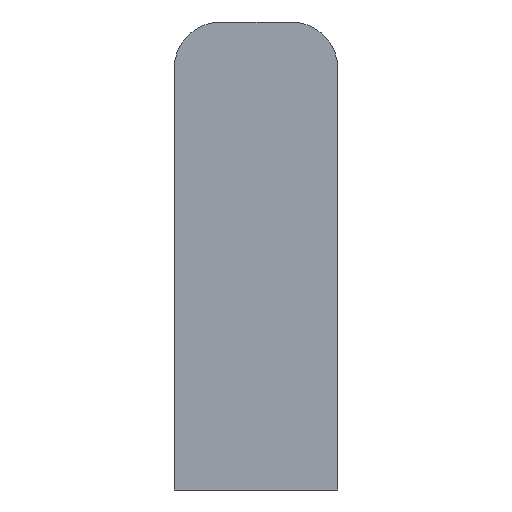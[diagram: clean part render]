
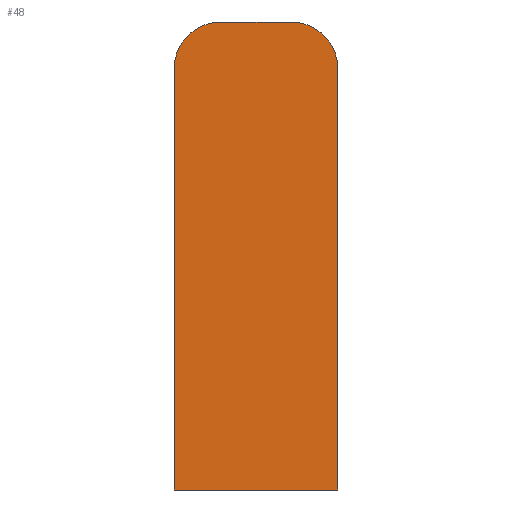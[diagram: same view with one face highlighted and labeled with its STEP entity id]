
A CAD part, front view. The second image highlights one B-rep face of the part: STEP entity #48.
In plain terms, the highlighted planar face has unit normal (0, -1, 0).
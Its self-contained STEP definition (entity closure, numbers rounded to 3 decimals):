
#3 = EDGE_CURVE ( 'NONE', #91, #57, #230, .T. ) ;
#5 = AXIS2_PLACEMENT_3D ( 'NONE', #79, #82, #83 ) ;
#8 = AXIS2_PLACEMENT_3D ( 'NONE', #126, #132, #133 ) ;
#14 = EDGE_CURVE ( 'NONE', #63, #54, #174, .T. ) ;
#15 = EDGE_CURVE ( 'NONE', #54, #91, #177, .T. ) ;
#18 = EDGE_CURVE ( 'NONE', #58, #63, #172, .T. ) ;
#21 = AXIS2_PLACEMENT_3D ( 'NONE', #76, #101, #102 ) ;
#22 = EDGE_CURVE ( 'NONE', #57, #53, #223, .T. ) ;
#33 = EDGE_CURVE ( 'NONE', #53, #58, #224, .T. ) ;
#48 = ADVANCED_FACE ( 'NONE', ( #254 ), #123, .F. ) ;
#53 = VERTEX_POINT ( 'NONE', #130 ) ;
#54 = VERTEX_POINT ( 'NONE', #135 ) ;
#57 = VERTEX_POINT ( 'NONE', #136 ) ;
#58 = VERTEX_POINT ( 'NONE', #137 ) ;
#63 = VERTEX_POINT ( 'NONE', #141 ) ;
#65 = CARTESIAN_POINT ( 'NONE',  ( 2.25, 0., 13.5 ) ) ;
#68 = DIRECTION ( 'NONE',  ( -1., 0., 0. ) ) ;
#71 = CARTESIAN_POINT ( 'NONE',  ( 5.25, 0., -16.5 ) ) ;
#76 = CARTESIAN_POINT ( 'NONE',  ( -2.25, 0., 10.5 ) ) ;
#79 = CARTESIAN_POINT ( 'NONE',  ( 2.25, 0., 10.5 ) ) ;
#80 = DIRECTION ( 'NONE',  ( 0., 0., 1. ) ) ;
#82 = DIRECTION ( 'NONE',  ( 0., -1., 0. ) ) ;
#83 = DIRECTION ( 'NONE',  ( -1., 0., 0. ) ) ;
#89 = CARTESIAN_POINT ( 'NONE',  ( 5.25, 0., -16.5 ) ) ;
#91 = VERTEX_POINT ( 'NONE', #142 ) ;
#94 = DIRECTION ( 'NONE',  ( 0., 0., -1. ) ) ;
#99 = DIRECTION ( 'NONE',  ( 1., 0., 0. ) ) ;
#100 = CARTESIAN_POINT ( 'NONE',  ( -5.25, 0., -16.5 ) ) ;
#101 = DIRECTION ( 'NONE',  ( 0., -1., 0. ) ) ;
#102 = DIRECTION ( 'NONE',  ( -1., 0., 0. ) ) ;
#123 = PLANE ( 'NONE',  #8 ) ;
#126 = CARTESIAN_POINT ( 'NONE',  ( 0., 0., -1.5 ) ) ;
#130 = CARTESIAN_POINT ( 'NONE',  ( -5.25, 0., 10.5 ) ) ;
#132 = DIRECTION ( 'NONE',  ( 0., 1., 0. ) ) ;
#133 = DIRECTION ( 'NONE',  ( -1., 0., 0. ) ) ;
#135 = CARTESIAN_POINT ( 'NONE',  ( 5.25, 0., 10.5 ) ) ;
#136 = CARTESIAN_POINT ( 'NONE',  ( -2.25, 0., 13.5 ) ) ;
#137 = CARTESIAN_POINT ( 'NONE',  ( -5.25, 0., -16.5 ) ) ;
#141 = CARTESIAN_POINT ( 'NONE',  ( 5.25, 0., -16.5 ) ) ;
#142 = CARTESIAN_POINT ( 'NONE',  ( 2.25, 0., 13.5 ) ) ;
#172 = LINE ( 'NONE', #89, #217 ) ;
#174 = LINE ( 'NONE', #71, #214 ) ;
#177 = CIRCLE ( 'NONE', #5, 3. ) ;
#182 = ORIENTED_EDGE ( 'NONE', *, *, #15, .T. ) ;
#183 = EDGE_LOOP ( 'NONE', ( #200, #182, #206, #195, #194, #193 ) ) ;
#193 = ORIENTED_EDGE ( 'NONE', *, *, #18, .T. ) ;
#194 = ORIENTED_EDGE ( 'NONE', *, *, #33, .T. ) ;
#195 = ORIENTED_EDGE ( 'NONE', *, *, #22, .T. ) ;
#200 = ORIENTED_EDGE ( 'NONE', *, *, #14, .T. ) ;
#206 = ORIENTED_EDGE ( 'NONE', *, *, #3, .T. ) ;
#214 = VECTOR ( 'NONE', #80, 1000. ) ;
#217 = VECTOR ( 'NONE', #99, 1000. ) ;
#221 = VECTOR ( 'NONE', #94, 1000. ) ;
#223 = CIRCLE ( 'NONE', #21, 3. ) ;
#224 = LINE ( 'NONE', #100, #221 ) ;
#227 = VECTOR ( 'NONE', #68, 1000. ) ;
#230 = LINE ( 'NONE', #65, #227 ) ;
#254 = FACE_OUTER_BOUND ( 'NONE', #183, .T. ) ;
